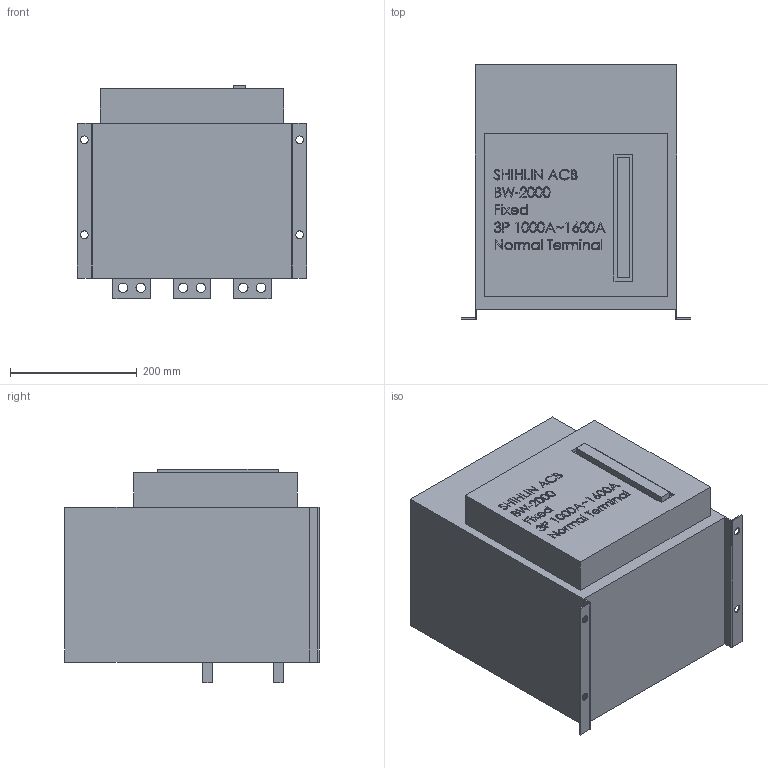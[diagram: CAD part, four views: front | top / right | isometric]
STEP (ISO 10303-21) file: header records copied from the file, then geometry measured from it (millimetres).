
FILE_DESCRIPTION (( 'STEP AP203' ), '1' );
FILE_NAME ('BW-2000-Fixed-3P-1000-1600A-Normal Terminal.STEP', '2020-04-09T11:00:03', ( '' ), ( '' ), 'SwSTEP 2.0', 'SolidWorks 2017', '' );
FILE_SCHEMA (( 'CONFIG_CONTROL_DESIGN' ));
Length unit declared in the file: millimetre
Products named in the file (1): BW-2000-Fixed-3P-1000-1600A-Normal Terminal
Bounding box: 362 x 402 x 337 mm (x, y, z)
Volume: 34367387.2 mm3; surface area: 761553.7 mm2
Topology: 3 solids, 3 shells, 703 faces, 1842 edges, 1228 vertices
Faces by surface type: plane 414, bspline 255, cylinder 34
Entity records: 36031 total; most frequent: CARTESIAN_POINT 20229, ORIENTED_EDGE 3684, DIRECTION 2298, EDGE_CURVE 1842, LINE 1264, VECTOR 1264, VERTEX_POINT 1228, EDGE_LOOP 818
